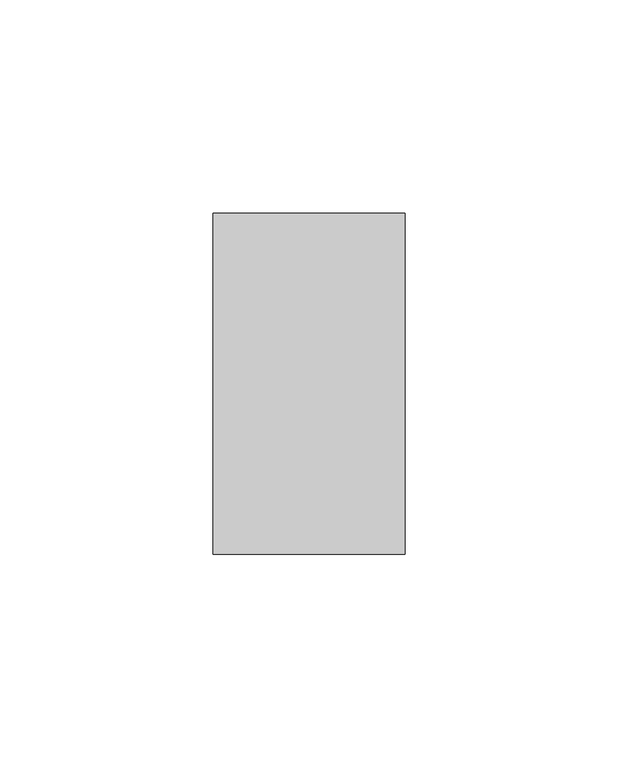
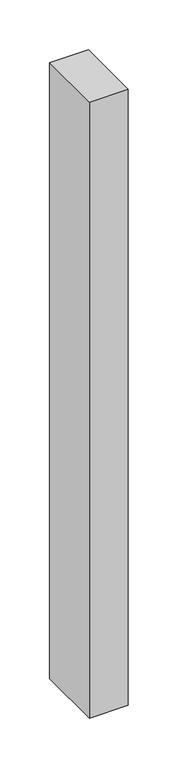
"""IFC4 building model written with IfcOpenShell, lengths in millimetres: member geometry, Obdélníková příčel : VERTI ELEMENT - vertikální."""

from ifc_helpers import new_model, si_unit, frame, origin, place, context, project, spatial, polyline, outline, extrude, source, transform, mapped, element, save


def member_4cfa1914(model_context):
    return source(origin(), model_context, "Body", "SweptSolid", [
        extrude(outline(polyline([(0.0, 40.0), (0.0, -40.0), (-45.0, -40.0), (-45.0, 40.0), (0.0, 40.0)])), frame((0.0, 0.0, -755.0), z_axis=(0.0, 0.0, 1.0), x_axis=(1.0, 0.0, 0.0)), (0.0, 0.0, 1.0), 755.0),
    ])


if __name__ == "__main__":
    model = new_model("IFC4")
    model_context = context("Model", 3, world=origin())
    ifc_project = project(units=[si_unit("LENGTHUNIT", "METRE", prefix="MILLI")], contexts=[model_context])
    site = spatial("IfcSite", under=ifc_project)
    building = spatial("IfcBuilding", under=site)
    placement = place(None, origin())
    member_shape = member_4cfa1914(model_context)
    element("IfcMember", 1, ObjectType="Obdélníková příčel : VERTI ELEMENT - vertikální", at=placement, inside=building, context=model_context, shape_type="MappedRepresentation", body=[
        mapped(member_shape, transform((0.0, 0.0, 0.0), x_axis=(1.0, 0.0, 0.0), y_axis=(0.0, 1.0, 0.0), z_axis=(0.0, 0.0, 1.0))),
    ])
    save(model, "model.ifc")
